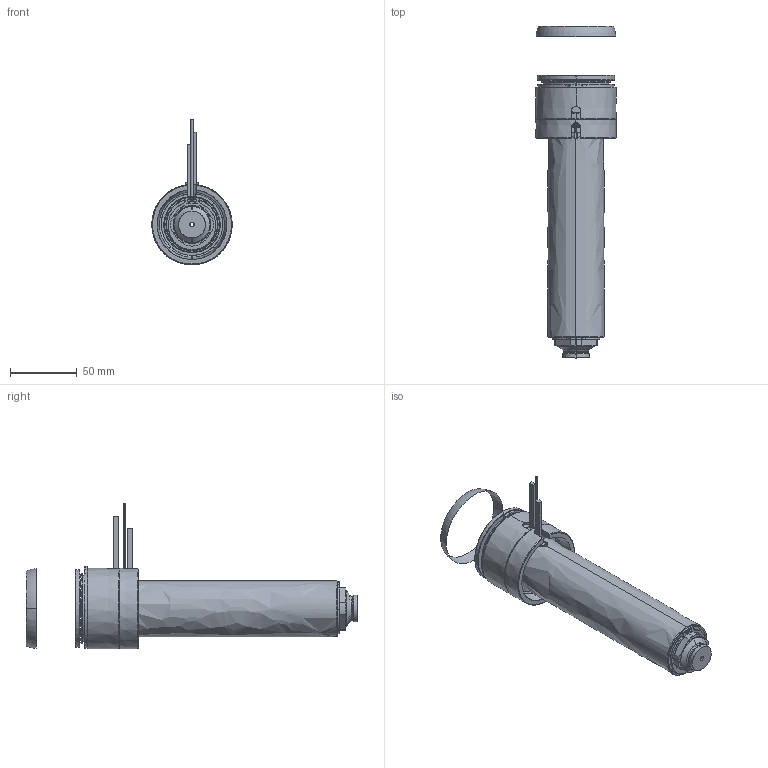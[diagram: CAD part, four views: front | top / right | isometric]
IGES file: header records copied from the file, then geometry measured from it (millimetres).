
Start section: SolidWorks IGES file using analytic representation for surfaces
Global section: file name: C:\Documents and Settings\ws-20\Desktop\TEM\UGER6607-S-A-0 [Øb-2.9 P-0 ØC-15].IGS; native system: SolidWorks 2012; preprocessor: SolidWorks 2012; author: ws-20; date: 120417.120205; units: millimetre
Bounding box: 60 x 247.77 x 108.65 mm (x, y, z)
Surface area: 104470.3 mm2 (no closed solid volume)
Topology: 0 solids, 0 shells, 164 faces, 3098 edges, 3098 vertices
Faces by surface type: revolution 102, bspline 62
